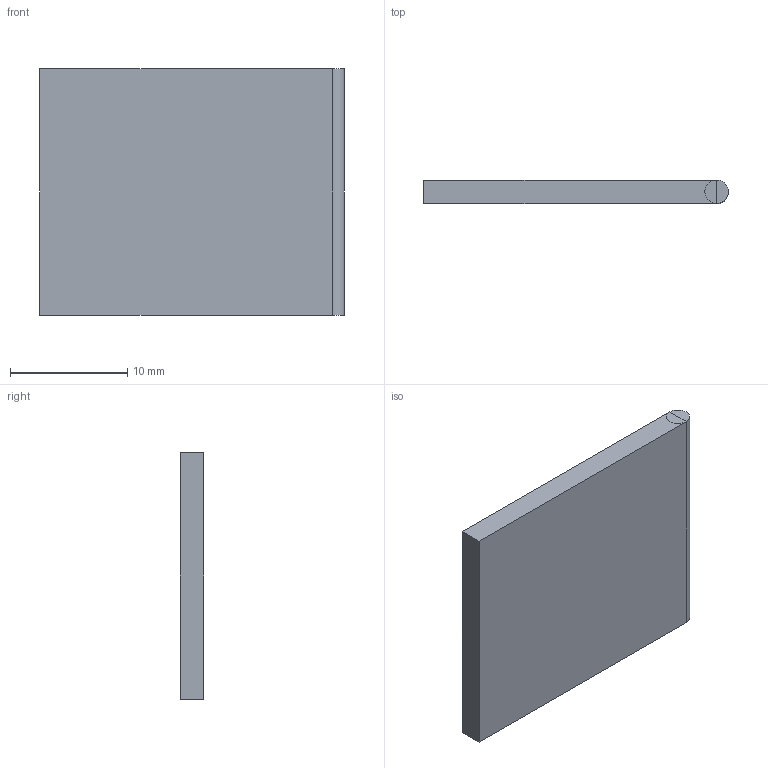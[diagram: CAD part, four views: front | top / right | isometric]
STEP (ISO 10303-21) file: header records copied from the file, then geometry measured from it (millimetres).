
FILE_DESCRIPTION(('Open CASCADE Model'),'2;1');
FILE_NAME('Open CASCADE Shape Model','2026-10-04T01:02:34',('Author'),( 'Open CASCADE'),'Open CASCADE STEP processor 8.0','Open CASCADE 8.0' ,'Unknown');
FILE_SCHEMA(('AUTOMOTIVE_DESIGN { 1 0 10303 214 1 1 1 1 }'));
Length unit declared in the file: millimetre
Products named in the file (1): Open CASCADE STEP translator 8.0 378
Bounding box: 26 x 2 x 21 mm (x, y, z)
Volume: 1083 mm3; surface area: 1261.1 mm2
Topology: 1 solids, 1 shells, 11 faces, 19 edges, 10 vertices
Faces by surface type: plane 9, cylinder 2
Entity records: 512 total; most frequent: DIRECTION 87, CARTESIAN_POINT 79, LINE 43, VECTOR 43, ORIENTED_EDGE 38, PCURVE 38, DEFINITIONAL_REPRESENTATION 38, EDGE_CURVE 19
